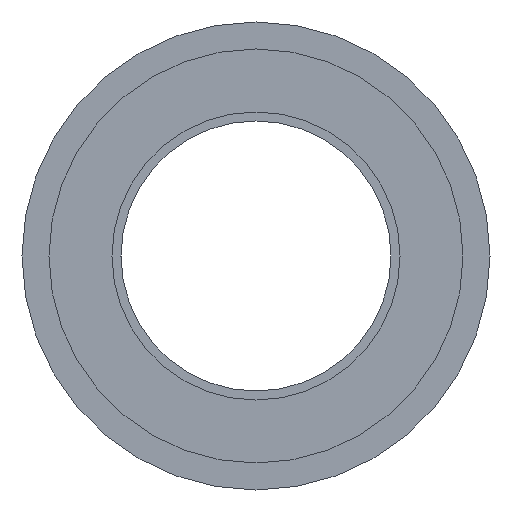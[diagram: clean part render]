
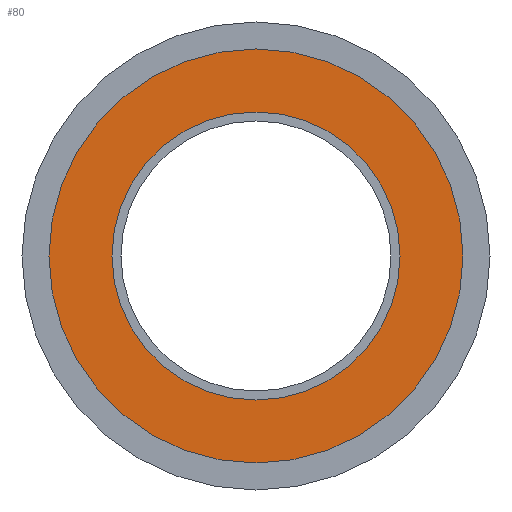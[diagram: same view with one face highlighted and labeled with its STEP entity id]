
A CAD part, left-side view. The second image highlights one B-rep face of the part: STEP entity #80.
In plain terms, the highlighted planar face has unit normal (-1, 0, 0).
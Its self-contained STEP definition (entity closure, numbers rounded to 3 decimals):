
#8 = EDGE_CURVE ( 'NONE', #191, #352, #34, .T. ) ;
#11 = CARTESIAN_POINT ( 'NONE',  ( 4.8, 0., -16. ) ) ;
#34 = CIRCLE ( 'NONE', #338, 23. ) ;
#49 = DIRECTION ( 'NONE',  ( -1., 0., 0. ) ) ;
#50 = CARTESIAN_POINT ( 'NONE',  ( 4.8, 0., 23. ) ) ;
#62 = CARTESIAN_POINT ( 'NONE',  ( 4.8, 0., 0. ) ) ;
#77 = PLANE ( 'NONE',  #384 ) ;
#80 = ADVANCED_FACE ( 'NONE', ( #417, #304 ), #77, .F. ) ;
#88 = AXIS2_PLACEMENT_3D ( 'NONE', #534, #517, #400 ) ;
#97 = CIRCLE ( 'NONE', #226, 16. ) ;
#146 = CARTESIAN_POINT ( 'NONE',  ( 4.8, 16., 0. ) ) ;
#148 = ORIENTED_EDGE ( 'NONE', *, *, #347, .F. ) ;
#149 = DIRECTION ( 'NONE',  ( 1., 0., 0. ) ) ;
#170 = DIRECTION ( 'NONE',  ( -1., 0., 0. ) ) ;
#172 = CARTESIAN_POINT ( 'NONE',  ( 4.8, 0., 0. ) ) ;
#191 = VERTEX_POINT ( 'NONE', #483 ) ;
#201 = CARTESIAN_POINT ( 'NONE',  ( 4.8, 0., 16. ) ) ;
#221 = EDGE_CURVE ( 'NONE', #300, #455, #392, .T. ) ;
#226 = AXIS2_PLACEMENT_3D ( 'NONE', #308, #49, #487 ) ;
#239 = ORIENTED_EDGE ( 'NONE', *, *, #221, .F. ) ;
#255 = AXIS2_PLACEMENT_3D ( 'NONE', #172, #170, #464 ) ;
#270 = DIRECTION ( 'NONE',  ( -1., 0., 0. ) ) ;
#300 = VERTEX_POINT ( 'NONE', #11 ) ;
#302 = CIRCLE ( 'NONE', #255, 23. ) ;
#304 = FACE_OUTER_BOUND ( 'NONE', #310, .T. ) ;
#308 = CARTESIAN_POINT ( 'NONE',  ( 4.8, 0., 0. ) ) ;
#310 = EDGE_LOOP ( 'NONE', ( #495, #373 ) ) ;
#318 = DIRECTION ( 'NONE',  ( 0., 0., -1. ) ) ;
#338 = AXIS2_PLACEMENT_3D ( 'NONE', #62, #270, #473 ) ;
#347 = EDGE_CURVE ( 'NONE', #455, #300, #97, .T. ) ;
#352 = VERTEX_POINT ( 'NONE', #50 ) ;
#373 = ORIENTED_EDGE ( 'NONE', *, *, #8, .T. ) ;
#384 = AXIS2_PLACEMENT_3D ( 'NONE', #146, #149, #318 ) ;
#392 = CIRCLE ( 'NONE', #88, 16. ) ;
#400 = DIRECTION ( 'NONE',  ( 0., 0., 1. ) ) ;
#417 = FACE_BOUND ( 'NONE', #432, .T. ) ;
#432 = EDGE_LOOP ( 'NONE', ( #148, #239 ) ) ;
#455 = VERTEX_POINT ( 'NONE', #201 ) ;
#464 = DIRECTION ( 'NONE',  ( 0., 0., 1. ) ) ;
#473 = DIRECTION ( 'NONE',  ( 0., 0., 1. ) ) ;
#483 = CARTESIAN_POINT ( 'NONE',  ( 4.8, 0., -23. ) ) ;
#487 = DIRECTION ( 'NONE',  ( 0., 0., 1. ) ) ;
#492 = EDGE_CURVE ( 'NONE', #352, #191, #302, .T. ) ;
#495 = ORIENTED_EDGE ( 'NONE', *, *, #492, .T. ) ;
#517 = DIRECTION ( 'NONE',  ( -1., 0., 0. ) ) ;
#534 = CARTESIAN_POINT ( 'NONE',  ( 4.8, 0., 0. ) ) ;
